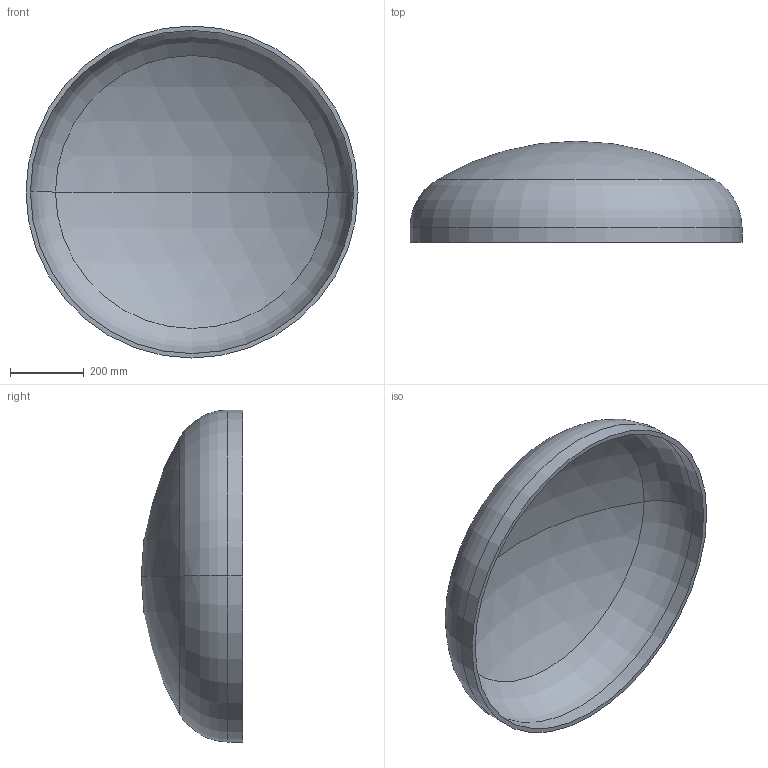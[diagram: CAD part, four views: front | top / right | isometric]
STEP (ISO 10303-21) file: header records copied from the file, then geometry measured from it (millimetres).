
FILE_DESCRIPTION (( 'STEP AP203' ), '1' );
FILE_NAME ('DIN 28013 Korbbogenform_-_Boden DIN 28013 - 900 x 40 - I - s=12.step', '2016-07-01T08:26:06', ( '' ), ( '' ), 'SwSTEP 2.0', 'SolidWorks 2013', '' );
FILE_SCHEMA (( 'CONFIG_CONTROL_DESIGN' ));
Length unit declared in the file: millimetre
Products named in the file (1): DIN 28013 Korbbogenform_-_Boden DIN 28013 - 900 x 40 - I - s=12
Bounding box: 900 x 274.41 x 900 mm (x, y, z)
Volume: 11748141 mm3; surface area: 1991801.2 mm2
Topology: 1 solids, 1 shells, 13 faces, 24 edges, 14 vertices
Faces by surface type: torus 4, cylinder 4, sphere 4, plane 1
Entity records: 407 total; most frequent: DIRECTION 72, CARTESIAN_POINT 52, ORIENTED_EDGE 48, AXIS2_PLACEMENT_3D 34, EDGE_CURVE 24, CIRCLE 20, VERTEX_POINT 14, EDGE_LOOP 14
